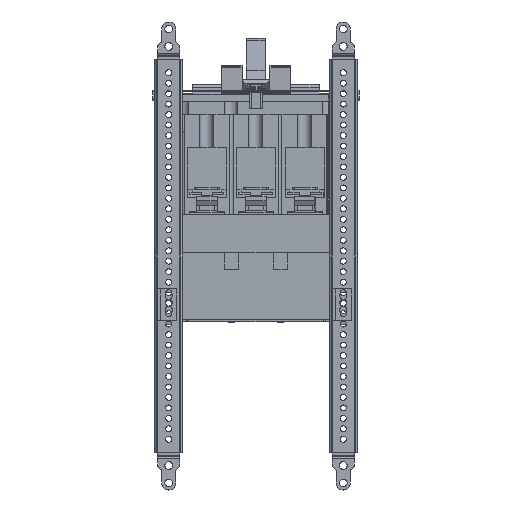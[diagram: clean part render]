
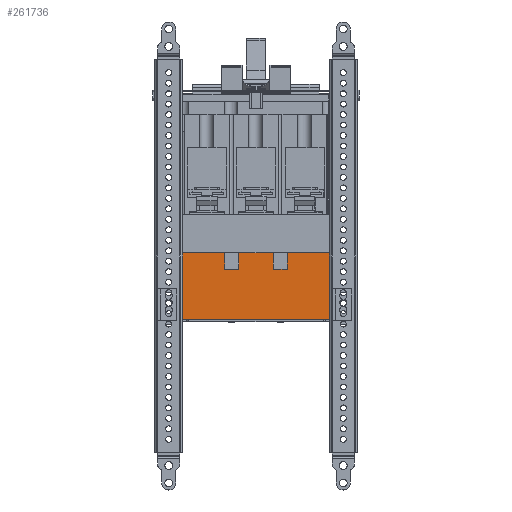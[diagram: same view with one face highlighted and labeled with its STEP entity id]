
A CAD part, left-side view. The second image highlights one B-rep face of the part: STEP entity #261736.
In plain terms, the highlighted planar face has unit normal (-1, 0, 0).
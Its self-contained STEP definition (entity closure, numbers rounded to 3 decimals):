
#259721=CARTESIAN_POINT(' ',(-117.161,-49.467,-65.647));
#259722=VERTEX_POINT(' ',#259721);
#259736=CARTESIAN_POINT(' ',(-117.161,55.533,-65.647));
#259741=DIRECTION(' ',(0.,-1.,0.));
#259746=VECTOR(' ',#259741,1.);
#259751=LINE('',#259736,#259746);
#259756=CARTESIAN_POINT(' ',(-117.161,55.533,-65.647));
#259757=VERTEX_POINT(' ',#259756);
#259761=EDGE_CURVE(' ',#259757,#259722,#259751,.T.);
#260141=CARTESIAN_POINT(' ',(-117.161,-49.467,-17.647));
#260142=VERTEX_POINT(' ',#260141);
#260156=CARTESIAN_POINT(' ',(-117.161,-49.467,-65.647));
#260161=DIRECTION(' ',(0.,0.,1.));
#260166=VECTOR(' ',#260161,1.);
#260171=LINE('',#260156,#260166);
#260176=EDGE_CURVE(' ',#259722,#260142,#260171,.T.);
#260786=CARTESIAN_POINT(' ',(-117.161,55.533,-65.647));
#260791=DIRECTION(' ',(0.,0.,1.));
#260796=VECTOR(' ',#260791,1.);
#260801=LINE('',#260786,#260796);
#260806=CARTESIAN_POINT(' ',(-117.161,55.533,-17.647));
#260807=VERTEX_POINT(' ',#260806);
#260811=EDGE_CURVE(' ',#259757,#260807,#260801,.T.);
#261376=DIRECTION(' ',(-1.,0.,0.));
#261381=CARTESIAN_POINT(' ',(-117.161,-49.467,-17.647));
#261386=DIRECTION(' ',(0.,1.,0.));
#261391=AXIS2_PLACEMENT_3D(' ',#261381,#261376,#261386);
#261396=PLANE('NONE',#261391);
#261401=CARTESIAN_POINT(' ',(-117.161,-19.467,-29.647));
#261406=DIRECTION(' ',(0.,0.,1.));
#261411=VECTOR(' ',#261406,1.);
#261416=LINE('',#261401,#261411);
#261421=CARTESIAN_POINT(' ',(-117.161,-19.467,-29.647));
#261422=VERTEX_POINT(' ',#261421);
#261426=CARTESIAN_POINT(' ',(-117.161,-19.467,-17.647));
#261427=VERTEX_POINT(' ',#261426);
#261431=EDGE_CURVE(' ',#261422,#261427,#261416,.T.);
#261436=ORIENTED_EDGE(' ',*,*,#261431,.F.);
#261441=CARTESIAN_POINT(' ',(-117.161,-9.467,-29.647));
#261446=DIRECTION(' ',(0.,-1.,0.));
#261451=VECTOR(' ',#261446,1.);
#261456=LINE('',#261441,#261451);
#261461=CARTESIAN_POINT(' ',(-117.161,-9.467,-29.647));
#261462=VERTEX_POINT(' ',#261461);
#261466=EDGE_CURVE(' ',#261462,#261422,#261456,.T.);
#261471=ORIENTED_EDGE(' ',*,*,#261466,.F.);
#261476=CARTESIAN_POINT(' ',(-117.161,-9.467,-17.647));
#261481=DIRECTION(' ',(0.,0.,-1.));
#261486=VECTOR(' ',#261481,1.);
#261491=LINE('',#261476,#261486);
#261496=CARTESIAN_POINT(' ',(-117.161,-9.467,-17.647));
#261497=VERTEX_POINT(' ',#261496);
#261501=EDGE_CURVE(' ',#261497,#261462,#261491,.T.);
#261506=ORIENTED_EDGE(' ',*,*,#261501,.F.);
#261511=CARTESIAN_POINT(' ',(-117.161,-9.467,-17.647));
#261516=DIRECTION(' ',(0.,1.,0.));
#261521=VECTOR(' ',#261516,1.);
#261526=LINE('',#261511,#261521);
#261531=CARTESIAN_POINT(' ',(-117.161,15.533,-17.647));
#261532=VERTEX_POINT(' ',#261531);
#261536=EDGE_CURVE(' ',#261497,#261532,#261526,.T.);
#261541=ORIENTED_EDGE(' ',*,*,#261536,.T.);
#261546=CARTESIAN_POINT(' ',(-117.161,15.533,-29.647));
#261551=DIRECTION(' ',(0.,0.,1.));
#261556=VECTOR(' ',#261551,1.);
#261561=LINE('',#261546,#261556);
#261566=CARTESIAN_POINT(' ',(-117.161,15.533,-29.647));
#261567=VERTEX_POINT(' ',#261566);
#261571=EDGE_CURVE(' ',#261567,#261532,#261561,.T.);
#261576=ORIENTED_EDGE(' ',*,*,#261571,.F.);
#261581=CARTESIAN_POINT(' ',(-117.161,25.533,-29.647));
#261586=DIRECTION(' ',(0.,-1.,0.));
#261591=VECTOR(' ',#261586,1.);
#261596=LINE('',#261581,#261591);
#261601=CARTESIAN_POINT(' ',(-117.161,25.533,-29.647));
#261602=VERTEX_POINT(' ',#261601);
#261606=EDGE_CURVE(' ',#261602,#261567,#261596,.T.);
#261611=ORIENTED_EDGE(' ',*,*,#261606,.F.);
#261616=CARTESIAN_POINT(' ',(-117.161,25.533,-17.647));
#261621=DIRECTION(' ',(0.,0.,-1.));
#261626=VECTOR(' ',#261621,1.);
#261631=LINE('',#261616,#261626);
#261636=CARTESIAN_POINT(' ',(-117.161,25.533,-17.647));
#261637=VERTEX_POINT(' ',#261636);
#261641=EDGE_CURVE(' ',#261637,#261602,#261631,.T.);
#261646=ORIENTED_EDGE(' ',*,*,#261641,.F.);
#261651=CARTESIAN_POINT(' ',(-117.161,55.533,-17.647));
#261656=DIRECTION(' ',(0.,-1.,0.));
#261661=VECTOR(' ',#261656,1.);
#261666=LINE('',#261651,#261661);
#261671=EDGE_CURVE(' ',#260807,#261637,#261666,.T.);
#261676=ORIENTED_EDGE(' ',*,*,#261671,.F.);
#261681=ORIENTED_EDGE(' ',*,*,#260811,.F.);
#261686=ORIENTED_EDGE(' ',*,*,#259761,.T.);
#261691=ORIENTED_EDGE(' ',*,*,#260176,.T.);
#261696=CARTESIAN_POINT(' ',(-117.161,-19.467,-17.647));
#261701=DIRECTION(' ',(0.,-1.,0.));
#261706=VECTOR(' ',#261701,1.);
#261711=LINE('',#261696,#261706);
#261716=EDGE_CURVE(' ',#261427,#260142,#261711,.T.);
#261721=ORIENTED_EDGE(' ',*,*,#261716,.F.);
#261726=EDGE_LOOP(' ',(#261436,#261471,#261506,#261541,#261576,#261611,#261646,#261676,#261681,#261686,#261691,#261721));
#261731=FACE_OUTER_BOUND(' ',#261726,.T.);
#261736=ADVANCED_FACE('NONE',(#261731),#261396,.T.);
